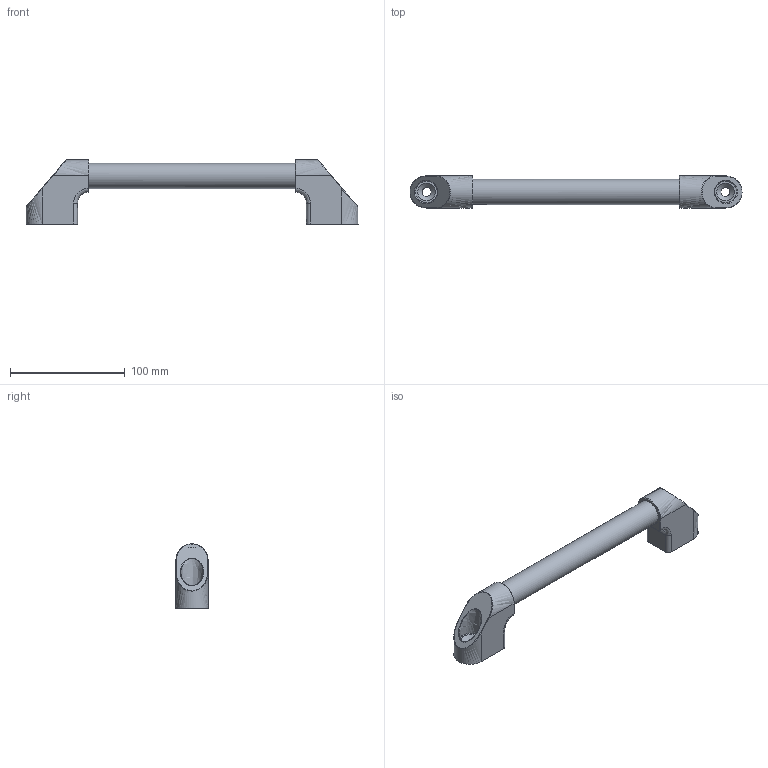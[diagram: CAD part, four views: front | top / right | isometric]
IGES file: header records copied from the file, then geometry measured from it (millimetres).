
Global section: file name: DR_A-AL22-261; native system: Autodesk Inventor 2015; preprocessor: unknown; author: Administrator; date: 20171109.165359; units: millimetre
Bounding box: 289.97 x 28 x 55.99 mm (x, y, z)
Volume: 96764.2 mm3; surface area: 51188.5 mm2
Topology: 3 solids, 3 shells, 70 faces, 154 edges, 94 vertices
Faces by surface type: bspline 70
